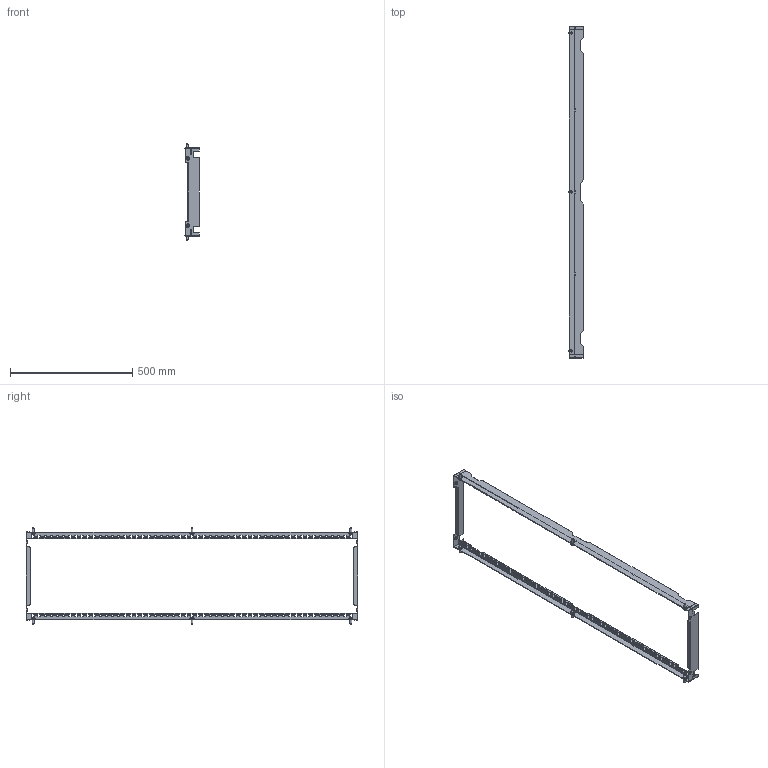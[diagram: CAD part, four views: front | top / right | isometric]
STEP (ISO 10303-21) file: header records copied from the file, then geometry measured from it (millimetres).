
FILE_DESCRIPTION (( 'STEP AP203' ), '1' );
FILE_NAME ('R6IP1440.step', '2025-07-11T08:05:49', ( '' ), ( '' ), 'SwSTEP 2.0', 'SolidWorks 2022', '' );
FILE_SCHEMA (( 'CONFIG_CONTROL_DESIGN' ));
Length unit declared in the file: millimetre
Products named in the file (7): M8x20 DIN 6921 cl.8,8 Zinc_straight; RB.3320.00.02.0_-02; RB.3320.00.01.0_-02; RB.3328.00.00.0; RB.3320.00.00.0 СБ_-02; R6IP1440; M6 DIN 6923 cl.8,0 Zinc_straight
Assembly tree (17 placements, depth 3):
  R6IP1440
    RB.3320.00.00.0 СБ_-02  x2
      RB.3320.00.01.0_-02
      RB.3320.00.02.0_-02
    RB.3328.00.00.0  x2
    M6 DIN 6923 cl.8,0 Zinc_straight  x4
    M8x20 DIN 6921 cl.8,8 Zinc_straight  x7
Bounding box: 57.76 x 1357.6 x 393.2 mm (x, y, z)
Volume: 421301.7 mm3; surface area: 661999.4 mm2
Topology: 17 solids, 17 shells, 3710 faces, 10803 edges, 7122 vertices
Faces by surface type: plane 2603, cylinder 931, cone 92, bspline 66, torus 18
Full cylindrical faces by diameter (mm): 5 x4, 6 x4, 8 x11
Entity records: 54315 total; most frequent: CARTESIAN_POINT 10027, ORIENTED_EDGE 9232, DIRECTION 8662, EDGE_CURVE 4616, LINE 3540, VECTOR 3540, VERTEX_POINT 3060, AXIS2_PLACEMENT_3D 2561
